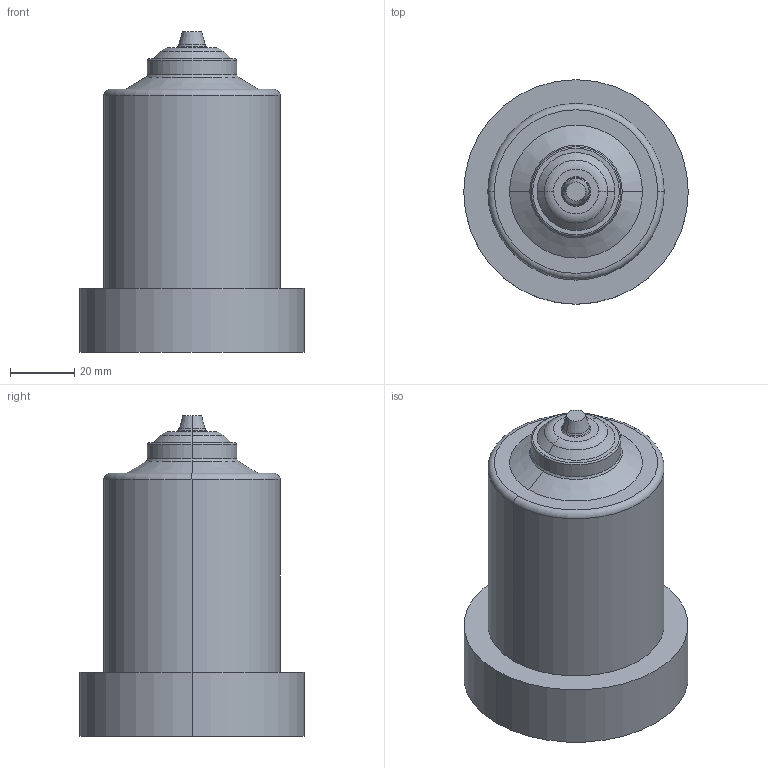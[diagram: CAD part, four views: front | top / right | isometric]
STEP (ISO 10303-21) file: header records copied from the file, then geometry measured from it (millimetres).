
FILE_DESCRIPTION (( 'STEP AP214' ), '1' );
FILE_NAME ('22E-06-100-VTW.STEP', '2022-01-10T08:57:28', ( '' ), ( '' ), 'SwSTEP 2.0', 'SolidWorks 2018', '' );
FILE_SCHEMA (( 'AUTOMOTIVE_DESIGN' ));
Length unit declared in the file: millimetre
Products named in the file (2): cutout_22E-06-100-VTW; 22E-06-100-VTW
Assembly tree (1 placements, depth 2):
  22E-06-100-VTW
    cutout_22E-06-100-VTW
Bounding box: 70 x 70 x 100 mm (x, y, z)
Volume: 232765.6 mm3; surface area: 23400.4 mm2
Topology: 1 solids, 1 shells, 30 faces, 58 edges, 34 vertices
Faces by surface type: cone 10, torus 8, cylinder 6, plane 6
Entity records: 838 total; most frequent: DIRECTION 168, CARTESIAN_POINT 126, ORIENTED_EDGE 116, AXIS2_PLACEMENT_3D 76, EDGE_CURVE 58, CIRCLE 42, EDGE_LOOP 34, VERTEX_POINT 34
